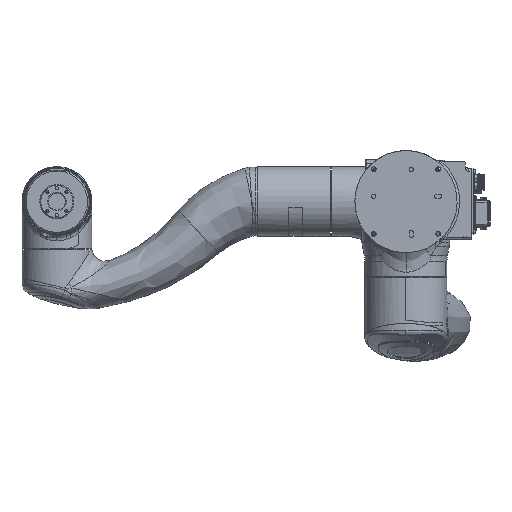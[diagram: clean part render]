
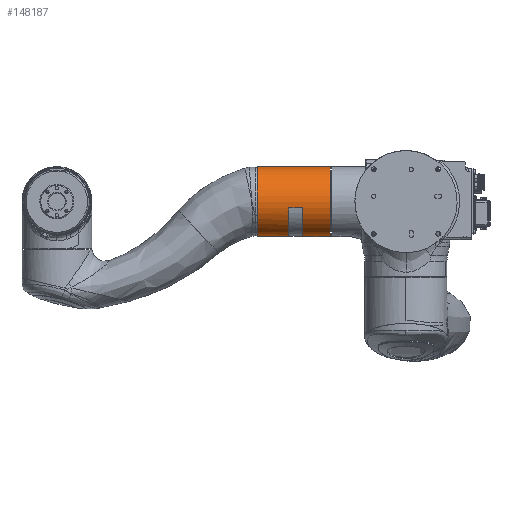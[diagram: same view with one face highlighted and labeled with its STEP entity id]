
A CAD part, front view. The second image highlights one B-rep face of the part: STEP entity #148187.
In plain terms, the highlighted cylindrical face has radius 65 mm (diameter 130 mm), a partial arc.
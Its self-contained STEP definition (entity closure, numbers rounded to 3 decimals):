
#145024=CARTESIAN_POINT('',(-218.8,845.,
-65.));
#145052=DIRECTION('',(1.,0.,0.));
#145053=VECTOR('',#145052,52.001);
#145054=CARTESIAN_POINT('',(-192.501,845.,
-65.));
#145055=LINE('',#145054,#145053);
#145067=DIRECTION('',(-1.,0.,0.));
#145068=VECTOR('',#145067,136.5);
#145069=CARTESIAN_POINT('',(-140.5,845.,65.));
#145070=LINE('',#145069,#145068);
#145074=DIRECTION('',(1.,0.,0.));
#145075=VECTOR('',#145074,58.2);
#145076=CARTESIAN_POINT('',(-277.,845.,-65.));
#145077=LINE('',#145076,#145075);
#145140=CARTESIAN_POINT('',(-218.8,845.,
-65.));
#145141=CARTESIAN_POINT('',(-218.8,843.408,
-65.));
#145142=CARTESIAN_POINT('',(-218.799,840.224,
-64.883));
#145143=CARTESIAN_POINT('',(-218.794,835.474,
-64.357));
#145144=CARTESIAN_POINT('',(-218.786,830.775,
-63.484));
#145145=CARTESIAN_POINT('',(-218.775,826.153,
-62.269));
#145146=CARTESIAN_POINT('',(-218.761,821.633,
-60.717));
#145147=CARTESIAN_POINT('',(-218.744,817.239,
-58.838));
#145148=CARTESIAN_POINT('',(-218.724,812.994,
-56.641));
#145149=CARTESIAN_POINT('',(-218.701,808.922,
-54.139));
#145150=CARTESIAN_POINT('',(-218.676,805.045,
-51.344));
#145151=CARTESIAN_POINT('',(-218.648,801.384,
-48.273));
#145152=CARTESIAN_POINT('',(-218.618,797.958,
-44.94));
#145153=CARTESIAN_POINT('',(-218.585,794.786,
-41.366));
#145154=CARTESIAN_POINT('',(-218.551,791.884,
-37.568));
#145155=CARTESIAN_POINT('',(-218.515,789.27,
-33.567));
#145156=CARTESIAN_POINT('',(-218.477,786.956,
-29.385));
#145157=CARTESIAN_POINT('',(-218.437,784.955,
-25.045));
#145158=CARTESIAN_POINT('',(-218.397,783.279,
-20.569));
#145159=CARTESIAN_POINT('',(-218.355,781.935,
-15.982));
#145160=CARTESIAN_POINT('',(-218.327,781.266,
-12.867));
#145161=CARTESIAN_POINT('',(-218.312,780.99,
-11.299));
#145166=CARTESIAN_POINT('',(-140.5,845.,0.));
#145167=DIRECTION('',(-1.,0.,0.));
#145168=DIRECTION('',(0.,0.,-1.));
#145169=AXIS2_PLACEMENT_3D('',#145166,#145167,#145168);
#145174=CARTESIAN_POINT('',(-192.501,845.,0.));
#145175=DIRECTION('',(-1.,0.,0.));
#145176=DIRECTION('',(0.,0.,-1.));
#145177=AXIS2_PLACEMENT_3D('',#145174,#145175,#145176);
#145182=DIRECTION('',(-1.,0.,0.));
#145183=VECTOR('',#145182,25.701);
#145184=CARTESIAN_POINT('',(-192.5,780.986,
-11.277));
#145185=LINE('',#145184,#145183);
#145189=CARTESIAN_POINT('',(-218.312,780.99,
-11.299));
#145190=CARTESIAN_POINT('',(-218.275,780.988,
-11.292));
#145191=CARTESIAN_POINT('',(-218.238,780.987,
-11.285));
#145192=CARTESIAN_POINT('',(-218.201,780.986,
-11.277));
#145197=CARTESIAN_POINT('',(-277.,845.,0.));
#145198=DIRECTION('',(-1.,0.,0.));
#145199=DIRECTION('',(0.,0.,-1.));
#145200=AXIS2_PLACEMENT_3D('',#145197,#145198,#145199);
#147937=CARTESIAN_POINT('',(-192.5,780.988,
-11.298));
#147938=CARTESIAN_POINT('',(-192.5,780.988,
-11.294));
#147939=CARTESIAN_POINT('',(-192.5,780.986,
-11.288));
#147940=CARTESIAN_POINT('',(-192.5,780.986,
-11.281));
#147941=CARTESIAN_POINT('',(-192.5,780.986,
-11.277));
#147967=CARTESIAN_POINT('',(-140.5,845.,65.));
#147968=CARTESIAN_POINT('',(-140.5,845.,-65.));
#147969=VERTEX_POINT('',#147967);
#147970=VERTEX_POINT('',#147968);
#147989=CARTESIAN_POINT('',(-277.,845.,-65.));
#147990=CARTESIAN_POINT('',(-277.,845.,65.));
#147991=VERTEX_POINT('',#147989);
#147992=VERTEX_POINT('',#147990);
#148078=CARTESIAN_POINT('',(-192.5,780.988,
-11.298));
#148079=VERTEX_POINT('',#148078);
#148081=VERTEX_POINT('',#145024);
#148086=VERTEX_POINT('',#145161);
#148087=CARTESIAN_POINT('',(-192.5,780.986,
-11.277));
#148088=CARTESIAN_POINT('',(-218.201,780.986,
-11.277));
#148089=VERTEX_POINT('',#148087);
#148090=VERTEX_POINT('',#148088);
#148091=CARTESIAN_POINT('',(-192.501,845.,
-65.));
#148092=VERTEX_POINT('',#148091);
#148164=CARTESIAN_POINT('',(-137.,845.,0.));
#148165=DIRECTION('',(-1.,0.,0.));
#148166=DIRECTION('',(0.,0.,1.));
#148167=AXIS2_PLACEMENT_3D('',#148164,#148165,#148166);
#148168=CYLINDRICAL_SURFACE('',#148167,65.);
#148169=ORIENTED_EDGE('',*,*,#148146,.F.);
#148170=ORIENTED_EDGE('',*,*,#148128,.F.);
#148172=ORIENTED_EDGE('',*,*,#148171,.T.);
#148173=ORIENTED_EDGE('',*,*,#148124,.F.);
#148175=ORIENTED_EDGE('',*,*,#148174,.F.);
#148176=ORIENTED_EDGE('',*,*,#148120,.F.);
#148178=ORIENTED_EDGE('',*,*,#148177,.T.);
#148180=ORIENTED_EDGE('',*,*,#148179,.T.);
#148182=ORIENTED_EDGE('',*,*,#148181,.T.);
#148184=ORIENTED_EDGE('',*,*,#148183,.F.);
#148185=EDGE_LOOP('',(#148169,#148170,#148172,#148173,#148175,#148176,#148178,
#148180,#148182,#148184));
#148186=FACE_OUTER_BOUND('',#148185,.F.);
#145162=B_SPLINE_CURVE_WITH_KNOTS('',3,(#145140,#145141,#145142,#145143,#145144,
#145145,#145146,#145147,#145148,#145149,#145150,#145151,#145152,#145153,#145154,
#145155,#145156,#145157,#145158,#145159,#145160,#145161),.UNSPECIFIED.,.F.,.F.,(
4,1,1,1,1,1,1,1,1,1,1,1,1,1,1,1,1,1,1,4),(0.,0.053,
0.105,0.158,0.211,0.263,
0.316,0.368,0.421,0.474,
0.526,0.579,0.632,0.684,
0.737,0.789,0.842,0.895,
0.947,1.),.UNSPECIFIED.);
#145170=CIRCLE('',#145169,65.);
#145178=CIRCLE('',#145177,65.);
#145193=B_SPLINE_CURVE_WITH_KNOTS('',3,(#145189,#145190,#145191,#145192),
.UNSPECIFIED.,.F.,.F.,(4,4),(0.,1.),.UNSPECIFIED.);
#145201=CIRCLE('',#145200,65.);
#147942=B_SPLINE_CURVE_WITH_KNOTS('',3,(#147937,#147938,#147939,#147940,
#147941),.UNSPECIFIED.,.F.,.F.,(4,1,4),(0.,0.5,1.),.UNSPECIFIED.);
#148120=EDGE_CURVE('',#148092,#147970,#145055,.T.);
#148124=EDGE_CURVE('',#147969,#147992,#145070,.T.);
#148128=EDGE_CURVE('',#147991,#148081,#145077,.T.);
#148146=EDGE_CURVE('',#148081,#148086,#145162,.T.);
#148171=EDGE_CURVE('',#147991,#147992,#145201,.T.);
#148174=EDGE_CURVE('',#147970,#147969,#145170,.T.);
#148177=EDGE_CURVE('',#148092,#148079,#145178,.T.);
#148179=EDGE_CURVE('',#148079,#148089,#147942,.T.);
#148181=EDGE_CURVE('',#148089,#148090,#145185,.T.);
#148183=EDGE_CURVE('',#148086,#148090,#145193,.T.);
#148187=ADVANCED_FACE('',(#148186),#148168,.T.);
